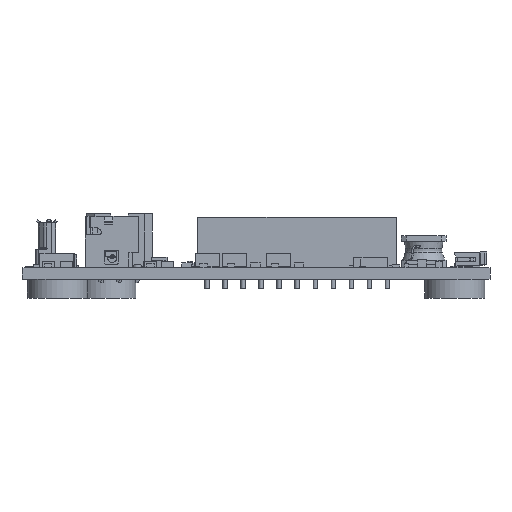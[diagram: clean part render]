
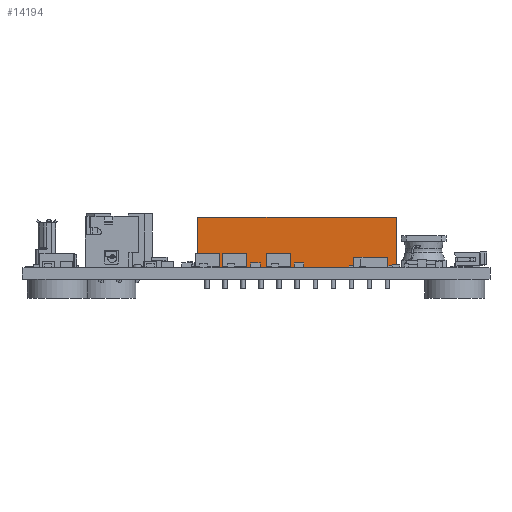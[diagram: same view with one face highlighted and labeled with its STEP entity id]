
A CAD part, front view. The second image highlights one B-rep face of the part: STEP entity #14194.
In plain terms, the highlighted planar face has unit normal (0, -1, 0).
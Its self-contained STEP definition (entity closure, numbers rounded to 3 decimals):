
#7450=FACE_OUTER_BOUND('',#61720,.T.);
#14194=ADVANCED_FACE('',(#7450),#19763,.T.);
#19763=PLANE('',#139564);
#22455=LINE('',#175180,#37886);
#36750=LINE('',#217681,#52196);
#36755=LINE('',#217790,#52201);
#36757=LINE('',#217819,#52203);
#37886=VECTOR('',#140294,1.);
#52196=VECTOR('',#170606,1.);
#52201=VECTOR('',#170737,1.);
#52203=VECTOR('',#170781,1.);
#61720=EDGE_LOOP('',(#96345,#96346,#96347,#96348));
#96345=ORIENTED_EDGE('',*,*,#128951,.T.);
#96346=ORIENTED_EDGE('',*,*,#129003,.F.);
#96347=ORIENTED_EDGE('',*,*,#112196,.F.);
#96348=ORIENTED_EDGE('',*,*,#128995,.T.);
#99921=VERTEX_POINT('',#175179);
#99922=VERTEX_POINT('',#175181);
#110993=VERTEX_POINT('',#217680);
#110994=VERTEX_POINT('',#217682);
#112196=EDGE_CURVE('',#99921,#99922,#22455,.T.);
#128951=EDGE_CURVE('',#110994,#110993,#36750,.T.);
#128995=EDGE_CURVE('',#99921,#110994,#36755,.T.);
#129003=EDGE_CURVE('',#99922,#110993,#36757,.T.);
#139564=AXIS2_PLACEMENT_3D('',#217820,#170782,#170783);
#140294=DIRECTION('',(-1.,0.,0.));
#170606=DIRECTION('',(-1.,0.,0.));
#170737=DIRECTION('',(0.,0.,1.));
#170781=DIRECTION('',(0.,0.,1.));
#170782=DIRECTION('',(0.,-1.,0.));
#170783=DIRECTION('',(1.,0.,0.));
#175179=CARTESIAN_POINT('',(52.82,10.99,0.));
#175180=CARTESIAN_POINT('',(52.82,10.99,0.));
#175181=CARTESIAN_POINT('',(24.78,10.99,0.));
#217680=CARTESIAN_POINT('',(24.78,10.99,7.1));
#217681=CARTESIAN_POINT('',(52.82,10.99,7.1));
#217682=CARTESIAN_POINT('',(52.82,10.99,7.1));
#217790=CARTESIAN_POINT('',(52.82,10.99,0.));
#217819=CARTESIAN_POINT('',(24.78,10.99,0.));
#217820=CARTESIAN_POINT('',(52.82,10.99,0.));
